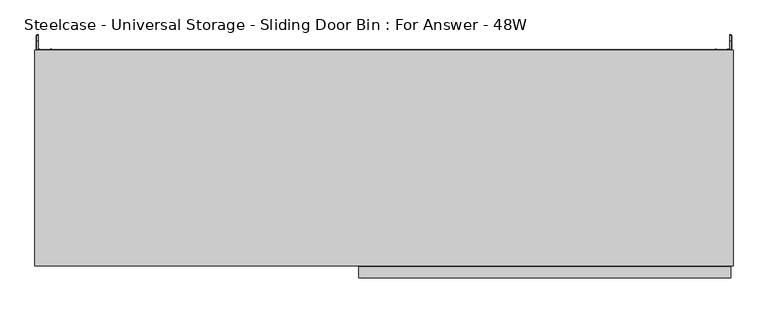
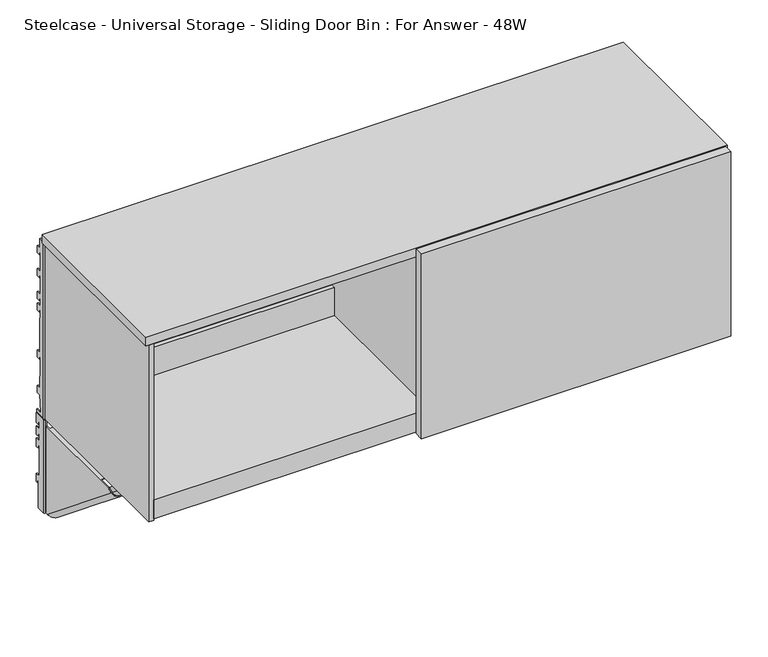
"""IFC4 building model written with IfcOpenShell, lengths in millimetres: furniture geometry, Steelcase - Universal Storage - Sliding Door Bin : For Answer - 48W."""

from ifc_helpers import new_model, si_unit, frame, origin, place, context, project, spatial, polyline, circle_curve, ellipse_curve, outline, extrude, faceted_brep, source, transform, mapped, element, save
from ifc_brep_helpers import plane_surface, cylinder_surface, revolved_surface, advanced_brep


def steelcase_universal_storage_sliding_door_bin_for_answer_48w_5d8dd8e4(model_context):
    return source(origin(), model_context, "Body", "SolidModel", [
        advanced_brep(
        [(4.0894, 24.9864881, 1265.2629), (4.0894, 1.1327479, 1265.2629), (4.0894, 1.1203386, 1058.2783), (4.0894, 17.3410881, 1058.2783), (4.0894, 17.3410881, 1118.4254822), (4.0894, 21.4050888, 1118.4254822), (4.0894, 21.4050888, 1112.0755064), (4.0894, 24.9864881, 1112.0755064), (4.0894, 24.9864881, 1130.3381271), (4.0894, 14.7756879, 1130.3381271), (4.0894, 14.7756879, 1196.9115345), (4.0894, 18.8396885, 1196.9115345), (4.0894, 18.8396885, 1190.561486), (4.0894, 24.9864881, 1190.561486), (4.0894, 24.9864881, 1208.8241068), (4.0894, 14.7756879, 1208.8241068), (4.0894, 14.7756879, 1223.0735277), (4.0894, 18.8396885, 1223.0735277), (4.0894, 18.8396885, 1216.7234793), (4.0894, 24.9864881, 1216.7234793), (4.0894, 24.9864881, 1234.9861), (4.0894, 14.7756879, 1234.9861), (4.0894, 14.7756879, 1249.2355209), (4.0894, 18.8396885, 1249.2355209), (4.0894, 18.8396885, 1242.8854725), (4.0894, 24.9864881, 1242.8854725), (2.1844, 24.9864881, 1265.2629), (2.1844, 24.9864881, 1242.8854725), (2.1844, 18.8396885, 1242.8854725), (2.1844, 18.8396885, 1249.2355209), (2.1844, 14.7756879, 1249.2355209), (2.1844, 14.7756879, 1234.9861), (2.1844, 24.9864881, 1234.9861), (2.1844, 24.9864881, 1216.7234793), (2.1844, 18.8396885, 1216.7234793), (2.1844, 18.8396885, 1223.0735277), (2.1844, 14.7756879, 1223.0735277), (2.1844, 14.7756879, 1208.8241068), (2.1844, 24.9864881, 1208.8241068), (2.1844, 24.9864881, 1190.561486), (2.1844, 18.8396885, 1190.561486), (2.1844, 18.8396885, 1196.9115345), (2.1844, 14.7756879, 1196.9115345), (2.1844, 14.7756879, 1130.3381271), (2.1844, 24.9864881, 1130.3381271), (2.1844, 24.9864881, 1112.0755064), (2.1844, 21.4050888, 1112.0755064), (2.1844, 21.4050888, 1118.4254822), (2.1844, 17.3410881, 1118.4254822), (2.1844, 17.3410881, 1058.2783), (2.1844, -0.7757522, 1058.2783), (2.1844, -0.7757522, 1265.2629), (4.4891598, -3.080512, 1265.2629), (8.1026, -3.080512, 1265.2629), (8.1026, -1.7838863, 1265.2629), (7.4942256, -1.175512, 1265.2629), (6.3852506, -1.175512, 1265.2629), (6.3852506, -1.175512, 1058.2783), (7.4942256, -1.175512, 1058.2783), (8.1026, -1.7838863, 1058.2783), (8.1026, -3.080512, 1058.2783), (4.4891598, -3.080512, 1058.2783)],
        [
            (0, 1),
            (1, 2),
            (2, 3),
            (3, 4),
            (4, 5),
            (5, 6),
            (6, 7),
            (7, 8),
            (8, 9),
            (9, 10),
            (10, 11),
            (11, 12),
            (12, 13),
            (13, 14),
            (14, 15),
            (15, 16),
            (16, 17),
            (17, 18),
            (18, 19),
            (19, 20),
            (20, 21),
            (21, 22),
            (22, 23),
            (23, 24),
            (24, 25),
            (25, 0),
            (26, 27),
            (27, 28),
            (28, 29),
            (29, 30),
            (30, 31),
            (31, 32),
            (32, 33),
            (33, 34),
            (34, 35),
            (35, 36),
            (36, 37),
            (37, 38),
            (38, 39),
            (39, 40),
            (40, 41),
            (41, 42),
            (42, 43),
            (43, 44),
            (44, 45),
            (45, 46),
            (46, 47),
            (47, 48),
            (48, 49),
            (49, 50),
            (50, 51),
            (51, 26),
            (0, 26),
            (51, 52, circle_curve(frame((4.4891598, -0.7757522, 1265.2629), z_axis=(0.0, 0.0, 1.0), x_axis=(1.0, 0.0, 0.0)), 2.3047598)),
            (52, 53),
            (53, 54),
            (54, 55, circle_curve(frame((7.4942256, -1.7838863, 1265.2629), z_axis=(0.0, 0.0, 1.0), x_axis=(1.0, 0.0, 0.0)), 0.6083744)),
            (55, 56),
            (56, 1, circle_curve(frame((6.3852506, 1.1203386, 1265.2629), z_axis=(0.0, 0.0, -1.0), x_axis=(1.0, 0.0, 0.0)), 2.2958506)),
            (2, 57, circle_curve(frame((6.3852506, 1.1203386, 1058.2783), z_axis=(0.0, 0.0, 1.0), x_axis=(1.0, 0.0, 0.0)), 2.2958506)),
            (57, 58),
            (58, 59, circle_curve(frame((7.4942256, -1.7838863, 1058.2783), z_axis=(0.0, 0.0, -1.0), x_axis=(1.0, 0.0, 0.0)), 0.6083744)),
            (59, 60),
            (60, 61),
            (61, 50, circle_curve(frame((4.4891598, -0.7757522, 1058.2783), z_axis=(0.0, 0.0, -1.0), x_axis=(1.0, 0.0, 0.0)), 2.3047598)),
            (49, 3),
            (48, 4),
            (47, 5),
            (46, 6),
            (45, 7),
            (44, 8),
            (43, 9),
            (42, 10),
            (41, 11),
            (40, 12),
            (39, 13),
            (38, 14),
            (37, 15),
            (36, 16),
            (35, 17),
            (34, 18),
            (33, 19),
            (32, 20),
            (31, 21),
            (30, 22),
            (29, 23),
            (28, 24),
            (27, 25),
            (61, 52),
            (60, 53),
            (59, 54),
            (58, 55),
            (57, 56),
        ],
        [
            plane_surface(frame((4.0894, 1.241405, 1265.2629), z_axis=(1.0, 0.0, 0.0), x_axis=(0.0, -1.0, 0.0))),
            plane_surface(frame((2.1844, 1.241405, 1265.2629), z_axis=(-1.0, 0.0, 0.0), x_axis=(0.0, 1.0, 0.0))),
            plane_surface(frame((4.0894, 24.9864881, 1265.2629), z_axis=(0.0, 0.0, 1.0), x_axis=(-1.0, 0.0, 0.0))),
            plane_surface(frame((4.0894, 1.1327479, 1058.2783), z_axis=(0.0, 0.0, -1.0), x_axis=(-1.0, 0.0, 0.0))),
            plane_surface(frame((4.0894, 17.3410881, 1058.2783), z_axis=(0.0, 1.0, 0.0), x_axis=(-1.0, 0.0, 0.0))),
            plane_surface(frame((4.0894, 17.3410881, 1118.4254822), z_axis=(0.0, 0.0, -1.0), x_axis=(-1.0, 0.0, 0.0))),
            plane_surface(frame((4.0894, 21.4050888, 1118.4254822), z_axis=(0.0, -1.0, 0.0), x_axis=(-1.0, 0.0, 0.0))),
            plane_surface(frame((4.0894, 21.4050888, 1112.0755064), z_axis=(0.0, 0.0, -1.0), x_axis=(-1.0, 0.0, 0.0))),
            plane_surface(frame((4.0894, 24.9864881, 1112.0755064), z_axis=(0.0, 1.0, 0.0), x_axis=(-1.0, 0.0, 0.0))),
            plane_surface(frame((4.0894, 24.9864881, 1130.3381271), z_axis=(0.0, 0.0, 1.0), x_axis=(-1.0, 0.0, 0.0))),
            plane_surface(frame((4.0894, 14.7756879, 1130.3381271), z_axis=(0.0, 1.0, 0.0), x_axis=(-1.0, 0.0, 0.0))),
            plane_surface(frame((4.0894, 14.7756879, 1196.9115345), z_axis=(0.0, 0.0, -1.0), x_axis=(-1.0, 0.0, 0.0))),
            plane_surface(frame((4.0894, 18.8396885, 1196.9115345), z_axis=(0.0, -1.0, 0.0), x_axis=(-1.0, 0.0, 0.0))),
            plane_surface(frame((4.0894, 18.8396885, 1190.561486), z_axis=(0.0, 0.0, -1.0), x_axis=(-1.0, 0.0, 0.0))),
            plane_surface(frame((4.0894, 24.9864881, 1190.561486), z_axis=(0.0, 1.0, 0.0), x_axis=(-1.0, 0.0, 0.0))),
            plane_surface(frame((4.0894, 24.9864881, 1208.8241068), z_axis=(0.0, 0.0, 1.0), x_axis=(-1.0, 0.0, 0.0))),
            plane_surface(frame((4.0894, 14.7756879, 1208.8241068), z_axis=(0.0, 1.0, 0.0), x_axis=(-1.0, 0.0, 0.0))),
            plane_surface(frame((4.0894, 14.7756879, 1223.0735277), z_axis=(0.0, 0.0, -1.0), x_axis=(-1.0, 0.0, 0.0))),
            plane_surface(frame((4.0894, 18.8396885, 1223.0735277), z_axis=(0.0, -1.0, 0.0), x_axis=(-1.0, 0.0, 0.0))),
            plane_surface(frame((4.0894, 18.8396885, 1216.7234793), z_axis=(0.0, 0.0, -1.0), x_axis=(-1.0, 0.0, 0.0))),
            plane_surface(frame((4.0894, 24.9864881, 1216.7234793), z_axis=(0.0, 1.0, 0.0), x_axis=(-1.0, 0.0, 0.0))),
            plane_surface(frame((4.0894, 24.9864881, 1234.9861), z_axis=(0.0, 0.0, 1.0), x_axis=(-1.0, 0.0, 0.0))),
            plane_surface(frame((4.0894, 14.7756879, 1234.9861), z_axis=(0.0, 1.0, 0.0), x_axis=(-1.0, 0.0, 0.0))),
            plane_surface(frame((4.0894, 14.7756879, 1249.2355209), z_axis=(0.0, 0.0, -1.0), x_axis=(-1.0, 0.0, 0.0))),
            plane_surface(frame((4.0894, 18.8396885, 1249.2355209), z_axis=(0.0, -1.0, 0.0), x_axis=(-1.0, 0.0, 0.0))),
            plane_surface(frame((4.0894, 18.8396885, 1242.8854725), z_axis=(0.0, 0.0, -1.0), x_axis=(-1.0, 0.0, 0.0))),
            plane_surface(frame((4.0894, 24.9864881, 1242.8854725), z_axis=(0.0, 1.0, 0.0), x_axis=(-1.0, 0.0, 0.0))),
            cylinder_surface(frame((4.4891598, -0.7757522, 1058.2783), z_axis=(0.0, 0.0, 1.0), x_axis=(1.0, 0.0, 0.0)), 2.3047598),
            plane_surface(frame((4.4891598, -3.080512, 1265.2629), z_axis=(0.0, -1.0, 0.0), x_axis=(0.0, 0.0, -1.0))),
            plane_surface(frame((8.1026, -3.080512, 1265.2629), z_axis=(1.0, 0.0, 0.0), x_axis=(0.0, 0.0, -1.0))),
            cylinder_surface(frame((7.4942256, -1.7838863, 1058.2783), z_axis=(0.0, 0.0, 1.0), x_axis=(1.0, 0.0, 0.0)), 0.6083744),
            plane_surface(frame((7.4942256, -1.175512, 1265.2629), z_axis=(0.0, 1.0, 0.0), x_axis=(0.0, 0.0, -1.0))),
            revolved_surface(polyline([(8.6811012, 1.1203386, 1058.2783), (8.6811012, 1.1203386, 1265.2629)]), (6.3852506, 1.1203386, 1058.2783), (0.0, 0.0, -1.0)),
        ],
        [
            (0, [[1, 2, 3, 4, 5, 6, 7, 8, 9, 10, 11, 12, 13, 14, 15, 16, 17, 18, 19, 20, 21, 22, 23, 24, 25, 26]]),
            (1, [[27, 28, 29, 30, 31, 32, 33, 34, 35, 36, 37, 38, 39, 40, 41, 42, 43, 44, 45, 46, 47, 48, 49, 50, 51, 52]]),
            (2, [[-1, 53, -52, 54, 55, 56, 57, 58, 59]]),
            (3, [[-3, 60, 61, 62, 63, 64, 65, -50, 66]]),
            (4, [[-4, -66, -49, 67]]),
            (5, [[-5, -67, -48, 68]]),
            (6, [[-6, -68, -47, 69]]),
            (7, [[-7, -69, -46, 70]]),
            (8, [[-8, -70, -45, 71]]),
            (9, [[-9, -71, -44, 72]]),
            (10, [[-10, -72, -43, 73]]),
            (11, [[-11, -73, -42, 74]]),
            (12, [[-12, -74, -41, 75]]),
            (13, [[-13, -75, -40, 76]]),
            (14, [[-14, -76, -39, 77]]),
            (15, [[-15, -77, -38, 78]]),
            (16, [[-16, -78, -37, 79]]),
            (17, [[-17, -79, -36, 80]]),
            (18, [[-18, -80, -35, 81]]),
            (19, [[-19, -81, -34, 82]]),
            (20, [[-20, -82, -33, 83]]),
            (21, [[-21, -83, -32, 84]]),
            (22, [[-22, -84, -31, 85]]),
            (23, [[-23, -85, -30, 86]]),
            (24, [[-24, -86, -29, 87]]),
            (25, [[-25, -87, -28, 88]]),
            (26, [[-26, -88, -27, -53]]),
            (27, [[-54, -51, -65, 89]]),
            (28, [[-55, -89, -64, 90]]),
            (29, [[-56, -90, -63, 91]]),
            (30, [[-57, -91, -62, 92]]),
            (31, [[-58, -92, -61, 93]]),
            (32, [[-59, -93, -60, -2]]),
        ],
    ),
        advanced_brep(
        [(1215.1106, 24.9864881, 1265.2629), (1215.1106, 24.9864881, 1242.8854725), (1215.1106, 18.8396885, 1242.8854725), (1215.1106, 18.8396885, 1249.2355209), (1215.1106, 14.7756879, 1249.2355209), (1215.1106, 14.7756879, 1234.9861), (1215.1106, 24.9864881, 1234.9861), (1215.1106, 24.9864881, 1216.7234793), (1215.1106, 18.8396885, 1216.7234793), (1215.1106, 18.8396885, 1223.0735277), (1215.1106, 14.7756879, 1223.0735277), (1215.1106, 14.7756879, 1208.8241068), (1215.1106, 24.9864881, 1208.8241068), (1215.1106, 24.9864881, 1190.561486), (1215.1106, 18.8396885, 1190.561486), (1215.1106, 18.8396885, 1196.9115345), (1215.1106, 14.7756879, 1196.9115345), (1215.1106, 14.7756879, 1130.3381271), (1215.1106, 24.9864881, 1130.3381271), (1215.1106, 24.9864881, 1112.0755064), (1215.1106, 21.4050888, 1112.0755064), (1215.1106, 21.4050888, 1118.4254822), (1215.1106, 17.3410881, 1118.4254822), (1215.1106, 17.3410881, 1058.2783), (1215.1106, 1.1327479, 1058.2783), (1215.1106, 1.1203386, 1265.2629), (1217.0156, -0.7757522, 1265.2629), (1217.0156, -0.7757522, 1058.2783), (1217.0156, 17.3410881, 1058.2783), (1217.0156, 17.3410881, 1118.4254822), (1217.0156, 21.4050888, 1118.4254822), (1217.0156, 21.4050888, 1112.0755064), (1217.0156, 24.9864881, 1112.0755064), (1217.0156, 24.9864881, 1130.3381271), (1217.0156, 14.7756879, 1130.3381271), (1217.0156, 14.7756879, 1196.9115345), (1217.0156, 18.8396885, 1196.9115345), (1217.0156, 18.8396885, 1190.561486), (1217.0156, 24.9864881, 1190.561486), (1217.0156, 24.9864881, 1208.8241068), (1217.0156, 14.7756879, 1208.8241068), (1217.0156, 14.7756879, 1223.0735277), (1217.0156, 18.8396885, 1223.0735277), (1217.0156, 18.8396885, 1216.7234793), (1217.0156, 24.9864881, 1216.7234793), (1217.0156, 24.9864881, 1234.9861), (1217.0156, 14.7756879, 1234.9861), (1217.0156, 14.7756879, 1249.2355209), (1217.0156, 18.8396885, 1249.2355209), (1217.0156, 18.8396885, 1242.8854725), (1217.0156, 24.9864881, 1242.8854725), (1217.0156, 24.9864881, 1265.2629), (1214.7108402, -3.080512, 1058.2783), (1211.3006, -3.080512, 1058.2783), (1211.3006, -1.7838863, 1058.2783), (1211.9089744, -1.175512, 1058.2783), (1212.8147494, -1.175512, 1058.2783), (1212.8147494, -1.175512, 1265.2629), (1211.9089744, -1.175512, 1265.2629), (1211.3006, -1.7838863, 1265.2629), (1211.3006, -3.080512, 1265.2629), (1214.7108402, -3.080512, 1265.2629)],
        [
            (0, 1),
            (1, 2),
            (2, 3),
            (3, 4),
            (4, 5),
            (5, 6),
            (6, 7),
            (7, 8),
            (8, 9),
            (9, 10),
            (10, 11),
            (11, 12),
            (12, 13),
            (13, 14),
            (14, 15),
            (15, 16),
            (16, 17),
            (17, 18),
            (18, 19),
            (19, 20),
            (20, 21),
            (21, 22),
            (22, 23),
            (23, 24),
            (24, 25),
            (25, 0),
            (26, 27),
            (27, 28),
            (28, 29),
            (29, 30),
            (30, 31),
            (31, 32),
            (32, 33),
            (33, 34),
            (34, 35),
            (35, 36),
            (36, 37),
            (37, 38),
            (38, 39),
            (39, 40),
            (40, 41),
            (41, 42),
            (42, 43),
            (43, 44),
            (44, 45),
            (45, 46),
            (46, 47),
            (47, 48),
            (48, 49),
            (49, 50),
            (50, 51),
            (51, 26),
            (0, 51),
            (50, 1),
            (49, 2),
            (48, 3),
            (47, 4),
            (46, 5),
            (45, 6),
            (44, 7),
            (43, 8),
            (42, 9),
            (41, 10),
            (40, 11),
            (39, 12),
            (38, 13),
            (37, 14),
            (36, 15),
            (35, 16),
            (34, 17),
            (33, 18),
            (32, 19),
            (31, 20),
            (30, 21),
            (29, 22),
            (28, 23),
            (27, 52, circle_curve(frame((1214.7108402, -0.7757522, 1058.2783), z_axis=(0.0, 0.0, -1.0), x_axis=(0.0, 1.0, 0.0)), 2.3047598)),
            (52, 53),
            (53, 54),
            (54, 55, circle_curve(frame((1211.9089744, -1.7838863, 1058.2783), z_axis=(0.0, 0.0, -1.0), x_axis=(0.0, 1.0, 0.0)), 0.6083744)),
            (55, 56),
            (56, 24, circle_curve(frame((1212.8147494, 1.1203386, 1058.2783), z_axis=(0.0, 0.0, 1.0), x_axis=(0.0, 1.0, 0.0)), 2.2958506)),
            (25, 57, circle_curve(frame((1212.8147494, 1.1203386, 1265.2629), z_axis=(0.0, 0.0, -1.0), x_axis=(0.0, 1.0, 0.0)), 2.2958506)),
            (57, 58),
            (58, 59, circle_curve(frame((1211.9089744, -1.7838863, 1265.2629), z_axis=(0.0, 0.0, 1.0), x_axis=(0.0, 1.0, 0.0)), 0.6083744)),
            (59, 60),
            (60, 61),
            (61, 26, circle_curve(frame((1214.7108402, -0.7757522, 1265.2629), z_axis=(0.0, 0.0, 1.0), x_axis=(0.0, 1.0, 0.0)), 2.3047598)),
            (56, 57),
            (55, 58),
            (54, 59),
            (53, 60),
            (52, 61),
        ],
        [
            plane_surface(frame((1215.1106, 24.9864881, 1265.2629), z_axis=(-1.0, 0.0, 0.0), x_axis=(0.0, 0.0, -1.0))),
            plane_surface(frame((1217.0156, 24.9864881, 1265.2629), z_axis=(1.0, 0.0, 0.0), x_axis=(0.0, 0.0, 1.0))),
            plane_surface(frame((1215.1106, 24.9864881, 1265.2629), z_axis=(0.0, 1.0, 0.0), x_axis=(1.0, 0.0, 0.0))),
            plane_surface(frame((1215.1106, 24.9864881, 1242.8854725), z_axis=(0.0, 0.0, -1.0), x_axis=(1.0, 0.0, 0.0))),
            plane_surface(frame((1215.1106, 18.8396885, 1242.8854725), z_axis=(0.0, -1.0, 0.0), x_axis=(1.0, 0.0, 0.0))),
            plane_surface(frame((1215.1106, 18.8396885, 1249.2355209), z_axis=(0.0, 0.0, -1.0), x_axis=(1.0, 0.0, 0.0))),
            plane_surface(frame((1215.1106, 14.7756879, 1249.2355209), z_axis=(0.0, 1.0, 0.0), x_axis=(1.0, 0.0, 0.0))),
            plane_surface(frame((1215.1106, 14.7756879, 1234.9861), z_axis=(0.0, 0.0, 1.0), x_axis=(1.0, 0.0, 0.0))),
            plane_surface(frame((1215.1106, 24.9864881, 1234.9861), z_axis=(0.0, 1.0, 0.0), x_axis=(1.0, 0.0, 0.0))),
            plane_surface(frame((1215.1106, 24.9864881, 1216.7234793), z_axis=(0.0, 0.0, -1.0), x_axis=(1.0, 0.0, 0.0))),
            plane_surface(frame((1215.1106, 18.8396885, 1216.7234793), z_axis=(0.0, -1.0, 0.0), x_axis=(1.0, 0.0, 0.0))),
            plane_surface(frame((1215.1106, 18.8396885, 1223.0735277), z_axis=(0.0, 0.0, -1.0), x_axis=(1.0, 0.0, 0.0))),
            plane_surface(frame((1215.1106, 14.7756879, 1223.0735277), z_axis=(0.0, 1.0, 0.0), x_axis=(1.0, 0.0, 0.0))),
            plane_surface(frame((1215.1106, 14.7756879, 1208.8241068), z_axis=(0.0, 0.0, 1.0), x_axis=(1.0, 0.0, 0.0))),
            plane_surface(frame((1215.1106, 24.9864881, 1208.8241068), z_axis=(0.0, 1.0, 0.0), x_axis=(1.0, 0.0, 0.0))),
            plane_surface(frame((1215.1106, 24.9864881, 1190.561486), z_axis=(0.0, 0.0, -1.0), x_axis=(1.0, 0.0, 0.0))),
            plane_surface(frame((1215.1106, 18.8396885, 1190.561486), z_axis=(0.0, -1.0, 0.0), x_axis=(1.0, 0.0, 0.0))),
            plane_surface(frame((1215.1106, 18.8396885, 1196.9115345), z_axis=(0.0, 0.0, -1.0), x_axis=(1.0, 0.0, 0.0))),
            plane_surface(frame((1215.1106, 14.7756879, 1196.9115345), z_axis=(0.0, 1.0, 0.0), x_axis=(1.0, 0.0, 0.0))),
            plane_surface(frame((1215.1106, 14.7756879, 1130.3381271), z_axis=(0.0, 0.0, 1.0), x_axis=(1.0, 0.0, 0.0))),
            plane_surface(frame((1215.1106, 24.9864881, 1130.3381271), z_axis=(0.0, 1.0, 0.0), x_axis=(1.0, 0.0, 0.0))),
            plane_surface(frame((1215.1106, 24.9864881, 1112.0755064), z_axis=(0.0, 0.0, -1.0), x_axis=(1.0, 0.0, 0.0))),
            plane_surface(frame((1215.1106, 21.4050888, 1112.0755064), z_axis=(0.0, -1.0, 0.0), x_axis=(1.0, 0.0, 0.0))),
            plane_surface(frame((1215.1106, 21.4050888, 1118.4254822), z_axis=(0.0, 0.0, -1.0), x_axis=(1.0, 0.0, 0.0))),
            plane_surface(frame((1215.1106, 17.3410881, 1118.4254822), z_axis=(0.0, 1.0, 0.0), x_axis=(1.0, 0.0, 0.0))),
            plane_surface(frame((1215.1106, 17.3410881, 1058.2783), z_axis=(0.0, 0.0, -1.0), x_axis=(1.0, 0.0, 0.0))),
            plane_surface(frame((1215.1106, 1.1327479, 1265.2629), z_axis=(0.0, 0.0, 1.0), x_axis=(1.0, 0.0, 0.0))),
            revolved_surface(polyline([(1212.8147494, 3.4161892, 1058.2783), (1212.8147494, 3.4161892, 1265.2629)]), (1212.8147494, 1.1203386, 1058.2783), (0.0, 0.0, -1.0)),
            plane_surface(frame((1212.8147494, -1.175512, 1265.2629), z_axis=(0.0, 1.0, 0.0), x_axis=(0.0, 0.0, -1.0))),
            cylinder_surface(frame((1211.9089744, -1.7838863, 1058.2783), z_axis=(0.0, 0.0, 1.0), x_axis=(0.0, 1.0, 0.0)), 0.6083744),
            plane_surface(frame((1211.3006, -1.7838863, 1265.2629), z_axis=(-1.0, 0.0, 0.0), x_axis=(0.0, 0.0, -1.0))),
            plane_surface(frame((1211.3006, -3.080512, 1265.2629), z_axis=(1.0859723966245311e-11, -1.0, 0.0), x_axis=(0.0, 0.0, -1.0))),
            cylinder_surface(frame((1214.7108402, -0.7757522, 1058.2783), z_axis=(0.0, 0.0, 1.0), x_axis=(0.0, 1.0, 0.0)), 2.3047598),
        ],
        [
            (0, [[1, 2, 3, 4, 5, 6, 7, 8, 9, 10, 11, 12, 13, 14, 15, 16, 17, 18, 19, 20, 21, 22, 23, 24, 25, 26]]),
            (1, [[27, 28, 29, 30, 31, 32, 33, 34, 35, 36, 37, 38, 39, 40, 41, 42, 43, 44, 45, 46, 47, 48, 49, 50, 51, 52]]),
            (2, [[-1, 53, -51, 54]]),
            (3, [[-2, -54, -50, 55]]),
            (4, [[-3, -55, -49, 56]]),
            (5, [[-4, -56, -48, 57]]),
            (6, [[-5, -57, -47, 58]]),
            (7, [[-6, -58, -46, 59]]),
            (8, [[-7, -59, -45, 60]]),
            (9, [[-8, -60, -44, 61]]),
            (10, [[-9, -61, -43, 62]]),
            (11, [[-10, -62, -42, 63]]),
            (12, [[-11, -63, -41, 64]]),
            (13, [[-12, -64, -40, 65]]),
            (14, [[-13, -65, -39, 66]]),
            (15, [[-14, -66, -38, 67]]),
            (16, [[-15, -67, -37, 68]]),
            (17, [[-16, -68, -36, 69]]),
            (18, [[-17, -69, -35, 70]]),
            (19, [[-18, -70, -34, 71]]),
            (20, [[-19, -71, -33, 72]]),
            (21, [[-20, -72, -32, 73]]),
            (22, [[-21, -73, -31, 74]]),
            (23, [[-22, -74, -30, 75]]),
            (24, [[-23, -75, -29, 76]]),
            (25, [[-24, -76, -28, 77, 78, 79, 80, 81, 82]]),
            (26, [[-26, 83, 84, 85, 86, 87, 88, -52, -53]]),
            (27, [[-83, -25, -82, 89]]),
            (28, [[-84, -89, -81, 90]]),
            (29, [[-85, -90, -80, 91]]),
            (30, [[-86, -91, -79, 92]]),
            (31, [[-87, -92, -78, 93]]),
            (32, [[-88, -93, -77, -27]]),
        ],
    ),
        advanced_brep(
        [(1190.1424, -230.0833372, 1251.1405), (1190.1424, 1.1327479, 1063.9053738), (1188.0342, 1.1327479, 1063.9053738), (1188.0342, -230.0833372, 1251.1405), (1188.0342, 1.1327479, 1058.2783), (1188.0342, -7.7654502, 1058.2783), (1188.0342, -240.6555763, 1246.8690381), (1211.3006, -7.7654502, 1058.2783), (1211.3006, -240.6555763, 1246.8690381), (1211.3006, 1.1327479, 1058.2783), (1211.3006, 1.1327479, 1063.9053738), (1211.3006, -3.080512, 1067.317205), (1211.3006, -3.080512, 1251.1405), (1211.3006, -230.0833372, 1251.1405), (1209.1924009, 1.1327479, 1063.9053738), (1209.1924009, -3.080512, 1067.317205), (1209.1924009, -7.7654502, 1058.2783), (1209.1924009, -240.6555763, 1246.8690381), (1209.1924009, -230.0833372, 1251.1405), (1209.1924009, -200.311512, 1251.1405), (1209.1924009, -200.311512, 1250.3023163), (1209.1924009, -14.0787123, 1250.3023163), (1209.1924009, -14.0787123, 1251.1405), (1209.1924009, -3.080512, 1251.1405), (1209.1924009, 1.1327479, 1058.2783), (1190.1424, -7.7654502, 1058.2783), (1190.1424, -240.6555763, 1246.8690381), (1190.1424, 1.1327479, 1058.2783), (1180.2617978, -200.311512, 1251.1405), (1180.2617978, -200.311512, 1269.5555016), (1179.4236, -200.311512, 1269.5555016), (1179.4236, -200.311512, 1250.3023163), (1179.4236, -82.5825138, 1269.5555016), (1180.2617978, -82.5825138, 1269.5555016), (1180.2617978, -82.5825138, 1251.1405), (1179.4236, -82.5825138, 1251.1405), (1179.4236, -14.0787123, 1251.1405), (1179.4236, -14.0787123, 1250.3023163)],
        [
            (0, 1),
            (1, 2),
            (2, 3),
            (3, 0),
            (2, 4),
            (4, 5),
            (5, 6),
            (6, 3),
            (5, 7, ellipse_curve(frame((1199.6674, -7.7654502, 1058.2783), z_axis=(0.0, 0.0, 1.0), x_axis=(0.0, -1.0, 0.0)), 18.4853359, 11.6332)),
            (7, 8),
            (8, 6, ellipse_curve(frame((1199.6674, -240.6555763, 1246.8690381), z_axis=(0.0, 0.374606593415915, -0.9271838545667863), x_axis=(0.0, -0.9271838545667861, -0.3746065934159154)), 13.3008659, 11.6332)),
            (7, 9),
            (9, 10),
            (10, 11),
            (11, 12),
            (12, 13),
            (13, 8),
            (10, 14),
            (14, 15),
            (15, 11),
            (16, 17),
            (17, 18),
            (18, 19),
            (19, 20),
            (20, 21),
            (21, 22),
            (22, 23),
            (23, 15),
            (14, 24),
            (24, 16),
            (16, 25, ellipse_curve(frame((1199.6674005, -7.7654502, 1058.2783), z_axis=(0.0, 0.0, -1.0), x_axis=(0.0, 1.0, 0.0)), 15.135374, 9.5250005)),
            (25, 26),
            (26, 17, ellipse_curve(frame((1199.6674005, -240.6555763, 1246.8690381), z_axis=(0.0, -0.374606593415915, 0.9271838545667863), x_axis=(0.0, 0.9271838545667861, 0.3746065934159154)), 10.8904475, 9.5250005)),
            (0, 26),
            (25, 27),
            (27, 1),
            (13, 18),
            (24, 9),
            (4, 27),
            (28, 29),
            (29, 30),
            (30, 31),
            (31, 20),
            (19, 28),
            (32, 33),
            (33, 34),
            (34, 35),
            (35, 32),
            (35, 36),
            (36, 37),
            (37, 31),
            (30, 32),
            (28, 34),
            (33, 29),
            (36, 22),
            (21, 37),
            (12, 23),
        ],
        [
            plane_surface(frame((1190.1424, -241.2702093, 1260.199452), z_axis=(0.0, 0.6293204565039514, 0.7771459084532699), x_axis=(0.0, 0.7771459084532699, -0.6293204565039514))),
            plane_surface(frame((1188.0342, -241.2702093, 1260.199452), z_axis=(-1.0, 0.0, 0.0), x_axis=(0.0, 0.7771459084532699, -0.6293204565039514))),
            cylinder_surface(frame((1199.6674, 5.728998, 1047.3507094), z_axis=(0.0, -0.7771459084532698, 0.6293204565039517), x_axis=(0.0, 0.6293204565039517, 0.7771459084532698)), 11.6332),
            plane_surface(frame((1211.3006, -247.5463438, 1252.4490726), z_axis=(1.0000000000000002, 0.0, 0.0), x_axis=(0.0, 0.7771459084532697, -0.6293204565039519))),
            plane_surface(frame((1211.3006, -241.2702093, 1260.199452), z_axis=(0.0, 0.6293204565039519, 0.7771459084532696), x_axis=(0.0, 0.7771459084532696, -0.6293204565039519))),
            plane_surface(frame((1209.1924009, -241.2702093, 1260.199452), z_axis=(-1.0, 0.0, 0.0), x_axis=(0.0, 0.7771459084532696, -0.6293204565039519))),
            revolved_surface(polyline([(1199.6674005, 7.3699238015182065, 1058.2783000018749), (1199.6674005, -238.76446812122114, 1257.5940349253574)]), (1199.6674005, 5.728998, 1047.3507094), (0.0, 0.7771459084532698, -0.6293204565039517)),
            plane_surface(frame((1190.1424, -247.5463438, 1252.4490726), z_axis=(1.0000000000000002, 0.0, 0.0), x_axis=(0.0, 0.7771459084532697, -0.6293204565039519))),
            plane_surface(frame((1219.2, -257.2236519, 1240.1751011), z_axis=(0.0, -0.374606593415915, 0.9271838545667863), x_axis=(-1.0, 0.0, 0.0))),
            plane_surface(frame((1219.2, 1.1327479, 1058.2783), z_axis=(0.0, 0.0, -1.0), x_axis=(-1.0, 0.0, 0.0))),
            plane_surface(frame((1219.2, 1.1327479, 1070.9783), z_axis=(0.0, 1.0, 0.0), x_axis=(-1.0, 0.0, 0.0))),
            plane_surface(frame((1179.4236, -200.311512, 1269.5555016), z_axis=(0.0, -1.0, 0.0), x_axis=(0.0, 0.0, -1.0))),
            plane_surface(frame((1179.4236, -82.5825138, 1269.5555016), z_axis=(0.0, 1.0, 0.0), x_axis=(0.0, 0.0, 1.0))),
            plane_surface(frame((1179.4236, -200.311512, 1269.5555016), z_axis=(-1.0, 0.0, 0.0), x_axis=(0.0, 1.0, 0.0))),
            plane_surface(frame((1180.2617978, -200.311512, 1251.1405), z_axis=(1.0, 0.0, 0.0), x_axis=(0.0, 1.0, 0.0))),
            plane_surface(frame((1180.2617978, -200.311512, 1269.5555016), z_axis=(0.0, 0.0, 1.0), x_axis=(0.0, 1.0, 0.0))),
            plane_surface(frame((1179.4236, -14.0787123, 1251.1405), z_axis=(0.0, 1.0, 0.0), x_axis=(0.0, 0.0, 1.0))),
            plane_surface(frame((1179.4236, -200.311512, 1250.3023163), z_axis=(0.0, 0.0, -1.0), x_axis=(0.0, 1.0, 0.0))),
            plane_surface(frame((1211.3006, -200.311512, 1251.1405), z_axis=(0.0, 0.0, 1.0), x_axis=(0.0, 1.0, 0.0))),
            plane_surface(frame((1211.3006, -3.080512, 1067.317205), z_axis=(0.0, 1.0, 0.0), x_axis=(-1.0, 0.0, 0.0))),
        ],
        [
            (0, [[1, 2, 3, 4]]),
            (1, [[-3, 5, 6, 7, 8]]),
            (2, [[-7, 9, 10, 11]]),
            (3, [[-10, 12, 13, 14, 15, 16, 17]]),
            (4, [[18, 19, 20, -14]]),
            (5, [[21, 22, 23, 24, 25, 26, 27, 28, -19, 29, 30]]),
            (6, [[-21, 31, 32, 33]]),
            (7, [[-1, 34, -32, 35, 36]]),
            (8, [[-4, -8, -11, -17, 37, -22, -33, -34]]),
            (9, [[38, -12, -9, -6, 39, -35, -31, -30]]),
            (10, [[-38, -29, -18, -13]]),
            (10, [[-39, -5, -2, -36]]),
            (11, [[40, 41, 42, 43, -24, 44]]),
            (12, [[45, 46, 47, 48]]),
            (13, [[-48, 49, 50, 51, -42, 52]]),
            (14, [[-40, 53, -46, 54]]),
            (15, [[-41, -54, -45, -52]]),
            (16, [[-50, 55, -26, 56]]),
            (17, [[-51, -56, -25, -43]]),
            (18, [[57, -27, -55, -49, -47, -53, -44, -23, -37, -16]]),
            (19, [[-15, -20, -28, -57]]),
        ],
    ),
        advanced_brep(
        [(8.1026, -3.080512, 1067.317205), (8.1026, -3.080512, 1251.1405), (8.1026, -14.0787123, 1251.1405), (8.1026, -14.0787123, 1250.3023163), (8.1026, -200.311512, 1250.3023163), (8.1026, -200.311512, 1251.1405), (8.1026, -230.0833372, 1251.1405), (8.1026, -240.6555763, 1246.8690381), (8.1026, -7.7654502, 1058.2783), (8.1026, 1.1327479, 1058.2783), (8.1026, 1.1327479, 1063.9053738), (5.9944, -3.080512, 1251.1405), (5.9944, -3.080512, 1067.317205), (5.9944, 1.1327479, 1063.9053738), (5.9944, 1.1327479, 1058.2783), (5.9944, -7.7654502, 1058.2783), (5.9944, -240.6555763, 1246.8690381), (5.9944, -230.0833372, 1251.1405), (39.5732022, -200.311512, 1251.1405), (39.5732022, -82.5825138, 1251.1405), (40.4114, -82.5825138, 1251.1405), (40.4114, -14.0787123, 1251.1405), (29.2608, -7.7654502, 1058.2783), (29.2608, -240.6555763, 1246.8690381), (29.2608, 1.1327479, 1058.2783), (29.2608, 1.1327479, 1063.9053738), (29.2608, -230.0833372, 1251.1405), (27.1526009, 1.1327479, 1063.9053738), (27.1526009, -230.0833372, 1251.1405), (27.1526009, 1.1327479, 1058.2783), (27.1526009, -7.7654502, 1058.2783), (27.1526009, -240.6555763, 1246.8690381), (40.4114, -200.311512, 1250.3023163), (40.4114, -200.311512, 1269.5555016), (39.5732022, -200.311512, 1269.5555016), (40.4114, -14.0787123, 1250.3023163), (40.4114, -82.5825138, 1269.5555016), (39.5732022, -82.5825138, 1269.5555016)],
        [
            (0, 1),
            (1, 2),
            (2, 3),
            (3, 4),
            (4, 5),
            (5, 6),
            (6, 7),
            (7, 8),
            (8, 9),
            (9, 10),
            (10, 0),
            (11, 12),
            (12, 13),
            (13, 14),
            (14, 15),
            (15, 16),
            (16, 17),
            (17, 11),
            (17, 6),
            (5, 18),
            (18, 19),
            (19, 20),
            (20, 21),
            (21, 2),
            (1, 11),
            (0, 12),
            (10, 13),
            (15, 22, ellipse_curve(frame((17.6276, -7.7654502, 1058.2783), z_axis=(0.0, 0.0, 1.0), x_axis=(0.0, -1.0, 0.0)), 18.4853359, 11.6332)),
            (22, 23),
            (23, 16, ellipse_curve(frame((17.6276, -240.6555763, 1246.8690381), z_axis=(0.0, 0.374606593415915, -0.9271838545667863), x_axis=(0.0, -0.9271838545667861, -0.3746065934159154)), 13.3008659, 11.6332)),
            (22, 24),
            (24, 25),
            (25, 26),
            (26, 23),
            (25, 27),
            (27, 28),
            (28, 26),
            (27, 29),
            (29, 30),
            (30, 31),
            (31, 28),
            (7, 31, ellipse_curve(frame((17.6276005, -240.6555763, 1246.8690381), z_axis=(0.0, -0.374606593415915, 0.9271838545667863), x_axis=(0.0, 0.9271838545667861, 0.3746065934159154)), 10.8904475, 9.5250005)),
            (30, 8, ellipse_curve(frame((17.6276005, -7.7654502, 1058.2783), z_axis=(0.0, 0.0, -1.0), x_axis=(0.0, 1.0, 0.0)), 15.135374, 9.5250005)),
            (14, 9),
            (29, 24),
            (4, 32),
            (32, 33),
            (33, 34),
            (34, 18),
            (21, 35),
            (35, 3),
            (35, 32),
            (20, 36),
            (36, 33),
            (19, 37),
            (37, 36),
            (37, 34),
        ],
        [
            plane_surface(frame((8.1026, -230.0833372, 1251.1405), z_axis=(1.0, 0.0, 0.0), x_axis=(0.0, -1.0, 0.0))),
            plane_surface(frame((5.9944, -230.0833372, 1251.1405), z_axis=(-1.0, 0.0, 0.0), x_axis=(0.0, 1.0, 0.0))),
            plane_surface(frame((8.1026, -3.080512, 1251.1405), z_axis=(0.0, 0.0, 1.0), x_axis=(-1.0, 0.0, 0.0))),
            plane_surface(frame((8.1026, -3.080512, 1067.317205), z_axis=(0.0, 1.0, 0.0), x_axis=(-1.0, 0.0, 0.0))),
            plane_surface(frame((8.1026, -241.2702093, 1260.199452), z_axis=(0.0, 0.6293204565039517, 0.7771459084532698), x_axis=(0.0, 0.7771459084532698, -0.6293204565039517))),
            cylinder_surface(frame((17.6276, 5.728998, 1047.3507094), z_axis=(0.0, -0.7771459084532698, 0.6293204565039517), x_axis=(1.0, 0.0, 0.0)), 11.6332),
            plane_surface(frame((29.2608, -247.5463438, 1252.4490726), z_axis=(1.0000000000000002, 0.0, 0.0), x_axis=(0.0, 0.7771459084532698, -0.6293204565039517))),
            plane_surface(frame((29.2608, -241.2702093, 1260.199452), z_axis=(0.0, 0.6293204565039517, 0.7771459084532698), x_axis=(0.0, 0.7771459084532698, -0.6293204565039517))),
            plane_surface(frame((27.1526009, -241.2702093, 1260.199452), z_axis=(-1.0000000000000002, 0.0, 0.0), x_axis=(0.0, 0.7771459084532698, -0.6293204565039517))),
            revolved_surface(polyline([(27.152601, 1.375646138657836, 1050.8759848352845), (27.152601, -244.75874578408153, 1250.1917197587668)]), (17.6276005, 5.728998, 1047.3507094), (0.0, 0.7771459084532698, -0.6293204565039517)),
            plane_surface(frame((1219.2, -257.2236519, 1240.1751011), z_axis=(0.0, -0.374606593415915, 0.9271838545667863), x_axis=(-1.0, 0.0, 0.0))),
            plane_surface(frame((1219.2, 1.1327479, 1058.2783), z_axis=(0.0, 0.0, -1.0), x_axis=(-1.0, 0.0, 0.0))),
            plane_surface(frame((1219.2, 1.1327479, 1070.9783), z_axis=(0.0, 1.0, 0.0), x_axis=(-1.0, 0.0, 0.0))),
            plane_surface(frame((10.5986151, -200.311512, 1251.1405), z_axis=(0.0, -1.0, 0.0), x_axis=(-1.0, 0.0, 0.0))),
            plane_surface(frame((10.5986151, -14.0787123, 1251.1405), z_axis=(0.0, 1.0, 0.0), x_axis=(1.0, 0.0, 0.0))),
            plane_surface(frame((8.1026, -200.311512, 1250.3023163), z_axis=(0.0, 0.0, -1.0), x_axis=(0.0, 1.0, 0.0))),
            plane_surface(frame((40.4114, -200.311512, 1250.3023163), z_axis=(1.0, 0.0, 0.0), x_axis=(0.0, 1.0, 0.0))),
            plane_surface(frame((38.1509305, -82.5825138, 1269.5555016), z_axis=(0.0, 1.0, 0.0), x_axis=(1.0, 0.0, 0.0))),
            plane_surface(frame((40.4114, -200.311512, 1269.5555016), z_axis=(0.0, 0.0, 1.0), x_axis=(0.0, 1.0, 0.0))),
            plane_surface(frame((39.5732022, -200.311512, 1269.5555016), z_axis=(-1.0, 0.0, 0.0), x_axis=(0.0, 1.0, 0.0))),
        ],
        [
            (0, [[1, 2, 3, 4, 5, 6, 7, 8, 9, 10, 11]]),
            (1, [[12, 13, 14, 15, 16, 17, 18]]),
            (2, [[-18, 19, -6, 20, 21, 22, 23, 24, -2, 25]]),
            (3, [[-1, 26, -12, -25]]),
            (4, [[-26, -11, 27, -13]]),
            (5, [[-16, 28, 29, 30]]),
            (6, [[-29, 31, 32, 33, 34]]),
            (7, [[-33, 35, 36, 37]]),
            (8, [[-36, 38, 39, 40, 41]]),
            (9, [[-8, 42, -40, 43]]),
            (10, [[-7, -19, -17, -30, -34, -37, -41, -42]]),
            (11, [[44, -9, -43, -39, 45, -31, -28, -15]]),
            (12, [[-44, -14, -27, -10]]),
            (12, [[-45, -38, -35, -32]]),
            (13, [[46, 47, 48, 49, -20, -5]]),
            (14, [[50, 51, -3, -24]]),
            (15, [[-46, -4, -51, 52]]),
            (16, [[-47, -52, -50, -23, 53, 54]]),
            (17, [[-53, -22, 55, 56]]),
            (18, [[-48, -54, -56, 57]]),
            (19, [[-49, -57, -55, -21]]),
        ],
    ),
        faceted_brep([(1200.2516023, -9.7789998, 1657.6929), (1200.2516023, -9.7789998, 1669.5546326), (1200.2516023, -10.6172003, 1669.5546326), (1200.2516023, -10.6172003, 1656.854681), (1200.2516023, -0.8382, 1656.854681), (1200.2516023, -0.8382266, 1657.6929), (17.0434001, -9.7789998, 1657.6929), (17.0434001, -0.8382, 1657.6929), (17.0434001, -0.8382011, 1656.854681), (17.0434001, -10.6172003, 1656.854681), (17.0434001, -10.6172003, 1669.5546326), (17.0434001, -9.7789998, 1669.5546326), (1202.8837557, -30.9238769, 1657.6929), (1203.7187599, -30.850824, 1657.6929), (1201.0930117, -0.8382, 1657.6929), (1215.1106, -0.8382, 1657.6929), (1215.1106, 0.1784978, 1657.6929), (2.1844, 0.1784978, 1657.6929), (2.1844, -0.8382, 1657.6929), (16.2019988, -0.8382, 1657.6929), (13.5762335, -30.850824, 1657.6929), (14.4176356, -30.850824, 1657.6929), (1215.1106, 0.1784978, 1265.2629), (1215.1106, -0.8382, 1265.2629), (1201.0930117, -0.8382, 1265.2629), (1203.7187599, -30.850824, 1265.2629), (1202.8837557, -30.9238769, 1265.2629), (1200.2516, -0.8382, 1265.2629), (17.0434002, -0.8382, 1265.2629), (14.4176356, -30.850824, 1265.2629), (13.5762335, -30.850824, 1265.2629), (16.2019988, -0.8382, 1265.2629), (2.1844, -0.8382, 1265.2629), (2.1844, 0.1784978, 1265.2629)], [[[0, 1, 2, 3, 4, 5]], [[6, 7, 8, 9, 10, 11]], [[1, 0, 6, 11]], [[2, 1, 11, 10]], [[3, 2, 10, 9]], [[4, 3, 9, 8]], [[0, 5, 12, 13, 14, 15, 16, 17, 18, 19, 20, 21, 7, 6]], [[22, 23, 24, 25, 26, 27, 28, 29, 30, 31, 32, 33]], [[17, 16, 22, 33]], [[18, 17, 33, 32]], [[19, 18, 32, 31]], [[20, 19, 31, 30]], [[21, 20, 30, 29]], [[7, 21, 29, 28, 8]], [[28, 27, 4, 8]], [[12, 5, 4, 27, 26]], [[13, 12, 26, 25]], [[14, 13, 25, 24]], [[15, 14, 24, 23]], [[16, 15, 23, 22]]]),
        faceted_brep([(1183.7415999, -61.4680004, 1273.7210903), (1183.7415999, -61.4680004, 1266.1011), (1183.7415999, -60.6298021, 1266.1011), (1183.7415999, -60.6298021, 1273.7210903), (33.5534002, -61.4680004, 1273.7210903), (33.5534002, -60.6298021, 1273.7210903), (33.5534002, -60.6298021, 1266.1011), (33.5534002, -61.468, 1266.1011), (17.0434001, -61.4680004, 1266.1011), (17.0434001, -61.4680004, 1265.2629), (1200.2516023, -61.4680004, 1265.2629), (1200.2516023, -61.4680004, 1266.1011), (1200.2516023, -0.8382, 1265.2629), (1200.2516023, -0.8382, 1266.1011), (17.0434001, -0.8382, 1266.1011), (17.0434001, -0.8382, 1265.2629)], [[[0, 1, 2, 3]], [[4, 5, 6, 7]], [[1, 0, 4, 7, 8, 9, 10, 11]], [[3, 2, 6, 5]], [[0, 3, 5, 4]], [[11, 10, 12, 13]], [[8, 14, 15, 9]], [[12, 10, 9, 15]], [[13, 12, 15, 14]], [[11, 13, 14, 8, 7, 6, 2, 1]]]),
        extrude(outline(polyline([(565.299143, -379.476), (1214.7703, -379.476), (1214.7703, -398.526), (565.299143, -398.526), (565.299143, -379.476)])), frame((0.0, 0.0, 1266.8226746), z_axis=(0.0, 0.0, 1.0), x_axis=(1.0, 0.0, 0.0)), (0.0, 0.0, 1.0), 409.5773254),
        faceted_brep([(1219.2, -377.213238, 1676.4), (0.0, -377.213238, 1676.4), (0.0, -377.213238, 1657.35), (592.836, -377.213238, 1657.35), (592.836, -377.213238, 1310.7072052), (626.364, -377.213238, 1310.7072052), (626.364, -377.213238, 1657.35), (629.0674273, -377.213238, 1657.35), (1219.2, -377.213238, 1657.35), (1219.2, 0.0, 1676.4), (1219.2, 0.0, 1657.35), (629.0674273, 0.0, 1657.35), (0.0, 0.0, 1657.35), (0.0, 0.0, 1676.4), (626.364, -27.0763996, 1657.35), (592.836, -27.0763996, 1657.35), (626.364, -27.0763996, 1310.7072052), (592.836, -27.0763996, 1310.7072052)], [[[0, 1, 2, 3, 4, 5, 6, 7, 8]], [[9, 10, 11, 12, 13]], [[1, 0, 9, 13]], [[2, 1, 13, 12]], [[8, 7, 11, 10]], [[0, 8, 10, 9]], [[12, 11, 7, 6, 14, 15, 3, 2]], [[14, 16, 17, 15]], [[16, 14, 6, 5]], [[17, 16, 5, 4]], [[15, 17, 4, 3]]]),
        faceted_brep([(15.875, -377.213238, 1657.0959457), (5.5118, -377.213238, 1657.0959457), (5.5118, -377.213238, 1265.428), (15.875, -377.213238, 1265.428), (15.875, 0.0, 1657.0959457), (15.875, 0.0, 1265.428), (5.5118, 0.0, 1265.428), (5.5118, 0.0, 1657.0959457)], [[[0, 1, 2, 3]], [[4, 5, 6, 7]], [[1, 0, 4, 7]], [[2, 1, 7, 6]], [[3, 2, 6, 5]], [[0, 3, 5, 4]]]),
        faceted_brep([(1218.0568665, -377.213238, 1657.0959457), (1203.325, -377.213238, 1657.0959457), (1203.325, -377.213238, 1265.428), (1218.0568665, -377.213238, 1265.428), (1218.0568665, 0.0, 1657.0959457), (1218.0568665, 0.0, 1265.428), (1203.325, 0.0, 1265.428), (1203.325, 0.0, 1657.0959457)], [[[0, 1, 2, 3]], [[4, 5, 6, 7]], [[1, 0, 4, 7]], [[2, 1, 7, 6]], [[3, 2, 6, 5]], [[0, 3, 5, 4]]]),
        extrude(outline(polyline([(0.0, 1657.096), (15.428165, 1657.096), (15.428165, 1635.9725192), (24.6737648, 1635.9725192), (24.6737648, 1620.2499324), (17.7141651, 1620.2499324), (17.7141651, 1627.4034202), (15.428165, 1627.4034202), (13.3707653, 1623.8398995), (13.3707653, 1584.7332049), (24.4959651, 1584.7332049), (24.4959651, 1569.0106181), (17.7141651, 1569.0106181), (17.7141651, 1576.1734076), (15.428165, 1576.1734076), (13.3707653, 1572.6099624), (13.3707653, 1533.4938907), (24.6737648, 1533.4938907), (24.6737648, 1517.7713038), (17.5768, 1517.7713038), (17.5768, 1524.9340934), (15.4248855, 1524.9340934), (13.3349998, 1521.3219111), (13.3349998, 1508.4166423), (24.6737648, 1508.4166423), (24.6737648, 1492.6940555), (17.5768, 1492.6940555), (17.5768, 1499.856845), (15.4205129, 1499.856845), (13.3933344, 1496.3530466), (13.3933344, 1483.6530466), (15.428165, 1479.2893385), (15.428165, 1403.8551467), (24.6737648, 1403.8551467), (24.6737648, 1388.1325599), (17.7141651, 1388.1325599), (17.7141651, 1395.2982562), (15.428165, 1395.2982562), (13.3306079, 1391.6651808), (13.3306079, 1353.5651808), (15.428165, 1349.9321054), (15.428165, 1325.1000701), (24.6737648, 1325.1000701), (24.6737648, 1309.3774833), (17.7141651, 1309.3774833), (17.7141651, 1316.5328605), (15.428165, 1316.5328605), (15.428165, 1303.5355433), (13.2046809, 1299.684356), (13.2046809, 1282.9679719), (11.2879653, 1282.9679719), (11.2879653, 1271.9303504), (26.4009645, 1271.9303504), (26.4009645, 1265.428), (0.0, 1265.428), (0.0, 1657.096)])), frame((1213.6882, 0.0, 0.0), z_axis=(1.0, 0.0, 0.0), x_axis=(0.0, 1.0, 0.0)), (0.0, 0.0, 1.0), 1.905),
        extrude(outline(polyline([(0.0, 1657.096), (15.428165, 1657.096), (15.428165, 1635.9725192), (24.6737648, 1635.9725192), (24.6737648, 1620.2499324), (17.7141651, 1620.2499324), (17.7141651, 1627.4034202), (15.428165, 1627.4034202), (13.3707653, 1623.8398995), (13.3707653, 1584.7332049), (24.4959651, 1584.7332049), (24.4959651, 1569.0106181), (17.7141651, 1569.0106181), (17.7141651, 1576.1734076), (15.428165, 1576.1734076), (13.3707653, 1572.6099624), (13.3707653, 1533.4938907), (24.6737648, 1533.4938907), (24.6737648, 1517.7713038), (17.5768, 1517.7713038), (17.5768, 1524.9340934), (15.4248855, 1524.9340934), (13.3349998, 1521.3219111), (13.3349998, 1508.4166423), (24.6737648, 1508.4166423), (24.6737648, 1492.6940555), (17.5768, 1492.6940555), (17.5768, 1499.856845), (15.4205129, 1499.856845), (13.3933344, 1496.3530466), (13.3933344, 1483.6530466), (15.428165, 1479.2893385), (15.428165, 1403.8551467), (24.6737648, 1403.8551467), (24.6737648, 1388.1325599), (17.7141651, 1388.1325599), (17.7141651, 1395.2982562), (15.428165, 1395.2982562), (13.3306079, 1391.6651808), (13.3306079, 1353.5651808), (15.428165, 1349.9321054), (15.428165, 1325.1000701), (24.6737648, 1325.1000701), (24.6737648, 1309.3774833), (17.7141651, 1309.3774833), (17.7141651, 1316.5328605), (15.428165, 1316.5328605), (15.428165, 1303.5355433), (13.2046809, 1299.684356), (13.2046809, 1282.9679719), (11.2879653, 1282.9679719), (11.2879653, 1271.9303504), (26.4009645, 1271.9303504), (26.4009645, 1265.428), (0.0, 1265.428), (0.0, 1657.096)])), frame((3.6068, 0.0, 0.0), z_axis=(1.0, 0.0, 0.0), x_axis=(0.0, 1.0, 0.0)), (0.0, 0.0, 1.0), 1.905),
        extrude(outline(polyline([(-35.4584098, 1372.819257), (-27.0763996, 1372.819257), (-27.0763996, 1360.1191601), (-33.4264117, 1360.1191601), (-33.4264117, 1323.1622589), (-27.0763996, 1323.1622589), (-27.0763996, 1265.428), (-35.4584098, 1265.428), (-35.4584098, 1293.054213), (-46.1263996, 1293.054213), (-46.1263996, 1268.1875622), (-59.9694137, 1268.1875622), (-59.9694137, 1294.8575912), (-332.8542818, 1294.8575912), (-332.8542818, 1268.1875622), (-377.3042823, 1268.1875622), (-377.3042823, 1310.7072052), (-35.4584098, 1310.7072052), (-35.4584098, 1372.819257)])), frame((15.875, 0.0, 0.0), z_axis=(1.0, 0.0, 0.0), x_axis=(0.0, 1.0, 0.0)), (0.0, 0.0, 1.0), 1187.45),
    ])


if __name__ == "__main__":
    model = new_model("IFC4")
    model_context = context("Model", 3, world=origin())
    ifc_project = project(units=[si_unit("LENGTHUNIT", "METRE", prefix="MILLI")], contexts=[model_context])
    site = spatial("IfcSite", under=ifc_project)
    building = spatial("IfcBuilding", under=site)
    placement = place(None, origin())
    steelcase_universal_storage_sliding_door_bin_for_answer_48w_shape = steelcase_universal_storage_sliding_door_bin_for_answer_48w_5d8dd8e4(model_context)
    element("IfcFurniture", 1, ObjectType="Steelcase - Universal Storage - Sliding Door Bin : For Answer - 48W", at=placement, inside=building, context=model_context, shape_type="MappedRepresentation", body=[
        mapped(steelcase_universal_storage_sliding_door_bin_for_answer_48w_shape, transform((0.0, 0.0, 0.0), x_axis=(1.0, 0.0, 0.0), y_axis=(0.0, 1.0, 0.0), z_axis=(0.0, 0.0, 1.0))),
    ])
    save(model, "model.ifc")
